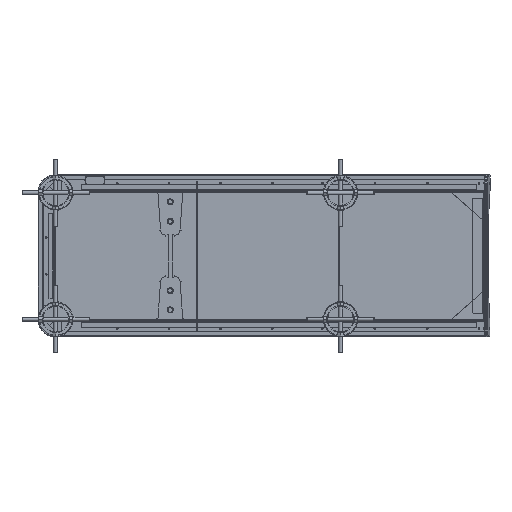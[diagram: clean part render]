
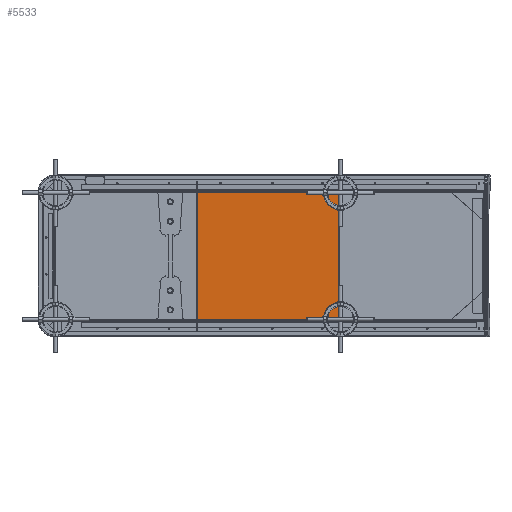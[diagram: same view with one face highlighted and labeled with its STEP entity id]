
A CAD part, front view. The second image highlights one B-rep face of the part: STEP entity #5533.
In plain terms, the highlighted planar face has unit normal (-0.052, -0.999, 0).
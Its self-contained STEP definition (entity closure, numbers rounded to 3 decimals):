
#2140 = EDGE_CURVE ( 'NONE', #57505, #39239, #32344, .T. ) ;
#3065 = VERTEX_POINT ( 'NONE', #54694 ) ;
#4661 = EDGE_CURVE ( 'NONE', #39239, #3065, #52101, .T. ) ;
#5533 = ADVANCED_FACE ( 'NONE', ( #53432 ), #24486, .F. ) ;
#5545 = VECTOR ( 'NONE', #47470, 1000. ) ;
#6849 = VECTOR ( 'NONE', #58211, 1000. ) ;
#7161 = ORIENTED_EDGE ( 'NONE', *, *, #4661, .T. ) ;
#7261 = EDGE_CURVE ( 'NONE', #18617, #3065, #52688, .T. ) ;
#8719 = VECTOR ( 'NONE', #55264, 1000. ) ;
#11028 = DIRECTION ( 'NONE',  ( -0.999, 0.052, 0. ) ) ;
#11105 = LINE ( 'NONE', #40322, #32875 ) ;
#14419 = AXIS2_PLACEMENT_3D ( 'NONE', #28482, #18841, #28896 ) ;
#18617 = VERTEX_POINT ( 'NONE', #35654 ) ;
#18808 = CARTESIAN_POINT ( 'NONE',  ( 840.428, 232.452, 192. ) ) ;
#18841 = DIRECTION ( 'NONE',  ( 0.052, 0.999, 0. ) ) ;
#24486 = PLANE ( 'NONE',  #14419 ) ;
#28482 = CARTESIAN_POINT ( 'NONE',  ( 421.583, 254.402, 192. ) ) ;
#28896 = DIRECTION ( 'NONE',  ( -0.999, 0.052, 0. ) ) ;
#32344 = LINE ( 'NONE', #34627, #6849 ) ;
#32875 = VECTOR ( 'NONE', #11028, 1000. ) ;
#34627 = CARTESIAN_POINT ( 'NONE',  ( 422.531, 254.353, 192. ) ) ;
#35654 = CARTESIAN_POINT ( 'NONE',  ( 840.428, 232.452, 189. ) ) ;
#39239 = VERTEX_POINT ( 'NONE', #59368 ) ;
#39480 = ORIENTED_EDGE ( 'NONE', *, *, #60113, .T. ) ;
#40322 = CARTESIAN_POINT ( 'NONE',  ( 840.428, 232.452, 189. ) ) ;
#40643 = CARTESIAN_POINT ( 'NONE',  ( 422.531, 254.353, -189. ) ) ;
#40984 = ORIENTED_EDGE ( 'NONE', *, *, #2140, .T. ) ;
#47077 = CARTESIAN_POINT ( 'NONE',  ( 422.531, 254.353, 189. ) ) ;
#47470 = DIRECTION ( 'NONE',  ( 0., 0., -1. ) ) ;
#52101 = LINE ( 'NONE', #40643, #8719 ) ;
#52688 = LINE ( 'NONE', #18808, #5545 ) ;
#53432 = FACE_OUTER_BOUND ( 'NONE', #54855, .T. ) ;
#53780 = ORIENTED_EDGE ( 'NONE', *, *, #7261, .F. ) ;
#54694 = CARTESIAN_POINT ( 'NONE',  ( 840.428, 232.452, -189. ) ) ;
#54855 = EDGE_LOOP ( 'NONE', ( #7161, #53780, #39480, #40984 ) ) ;
#55264 = DIRECTION ( 'NONE',  ( 0.999, -0.052, 0. ) ) ;
#57505 = VERTEX_POINT ( 'NONE', #47077 ) ;
#58211 = DIRECTION ( 'NONE',  ( 0., 0., -1. ) ) ;
#59368 = CARTESIAN_POINT ( 'NONE',  ( 422.531, 254.353, -189. ) ) ;
#60113 = EDGE_CURVE ( 'NONE', #18617, #57505, #11105, .T. ) ;
